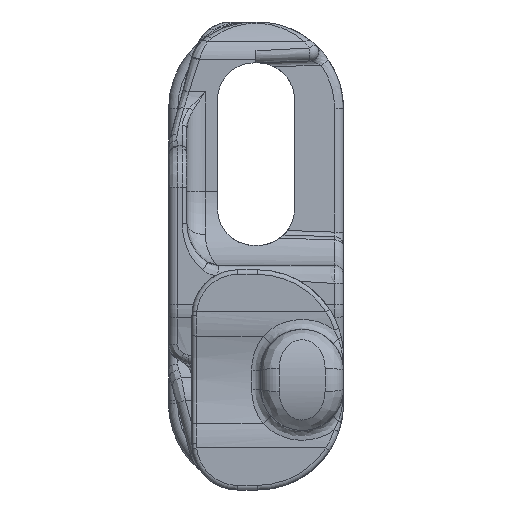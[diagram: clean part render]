
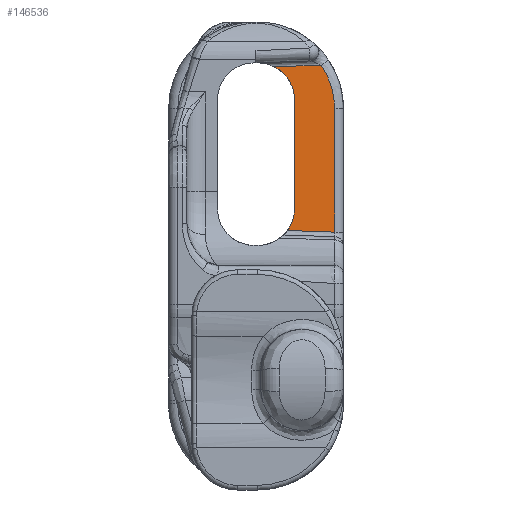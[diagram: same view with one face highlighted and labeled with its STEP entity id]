
A CAD part, left-side view. The second image highlights one B-rep face of the part: STEP entity #146536.
In plain terms, the highlighted planar face has unit normal (-0.999, -0.035, 0).
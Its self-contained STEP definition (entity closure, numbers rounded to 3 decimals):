
#54269=CARTESIAN_POINT('',(-125.051,-8.56,
4.601));
#54288=DIRECTION('',(0.,0.,-1.));
#54289=VECTOR('',#54288,11.9);
#54290=CARTESIAN_POINT('',(-125.203,-4.2,19.05));
#54291=LINE('',#54290,#54289);
#54295=CARTESIAN_POINT('',(-125.28,-2.004,
22.62));
#54296=CARTESIAN_POINT('',(-125.267,-2.37,
22.435));
#54297=CARTESIAN_POINT('',(-125.246,-2.981,
21.991));
#54298=CARTESIAN_POINT('',(-125.223,-3.645,
21.17));
#54299=CARTESIAN_POINT('',(-125.208,-4.079,
20.206));
#54300=CARTESIAN_POINT('',(-125.203,-4.2,19.46));
#54301=CARTESIAN_POINT('',(-125.203,-4.2,19.05));
#54306=DIRECTION('',(0.035,-0.999,0.035));
#54307=VECTOR('',#54306,5.125);
#54308=CARTESIAN_POINT('',(-125.28,-2.004,
22.62));
#54309=LINE('',#54308,#54307);
#54313=CARTESIAN_POINT('',(-125.101,-7.123,
22.799));
#54314=CARTESIAN_POINT('',(-125.097,-7.256,
22.602));
#54315=CARTESIAN_POINT('',(-125.088,-7.504,
22.198));
#54316=CARTESIAN_POINT('',(-125.077,-7.825,
21.56));
#54317=CARTESIAN_POINT('',(-125.067,-8.091,
20.898));
#54318=CARTESIAN_POINT('',(-125.06,-8.299,
20.217));
#54319=CARTESIAN_POINT('',(-125.055,-8.449,
19.52));
#54320=CARTESIAN_POINT('',(-125.052,-8.54,
18.812));
#54321=CARTESIAN_POINT('',(-125.051,-8.56,
18.338));
#54322=CARTESIAN_POINT('',(-125.051,-8.56,18.1));
#54327=DIRECTION('',(0.,0.,-1.));
#54328=VECTOR('',#54327,13.499);
#54329=CARTESIAN_POINT('',(-125.051,-8.56,18.1));
#54330=LINE('',#54329,#54328);
#54334=DIRECTION('',(0.035,-0.999,-0.035));
#54335=VECTOR('',#54334,5.144);
#54336=CARTESIAN_POINT('',(-125.23,-3.422,
4.78));
#54337=LINE('',#54336,#54335);
#54341=CARTESIAN_POINT('',(-125.203,-4.2,7.15));
#54342=CARTESIAN_POINT('',(-125.203,-4.2,6.712));
#54343=CARTESIAN_POINT('',(-125.208,-4.06,
5.883));
#54344=CARTESIAN_POINT('',(-125.221,-3.682,
5.133));
#54345=CARTESIAN_POINT('',(-125.23,-3.422,
4.78));
#54363=CARTESIAN_POINT('',(-125.28,-2.004,
22.62));
#84853=VERTEX_POINT('',#54269);
#84856=CARTESIAN_POINT('',(-125.051,-8.56,18.1));
#84857=VERTEX_POINT('',#84856);
#84859=VERTEX_POINT('',#54313);
#85290=CARTESIAN_POINT('',(-125.203,-4.2,19.05));
#85291=CARTESIAN_POINT('',(-125.203,-4.2,7.15));
#85292=VERTEX_POINT('',#85290);
#85293=VERTEX_POINT('',#85291);
#85301=VERTEX_POINT('',#54363);
#85320=CARTESIAN_POINT('',(-125.23,-3.422,
4.78));
#85321=VERTEX_POINT('',#85320);
#146521=CARTESIAN_POINT('',(-125.35,0.,24.41));
#146522=DIRECTION('',(0.999,0.035,0.));
#146523=DIRECTION('',(0.,0.,-1.));
#146524=AXIS2_PLACEMENT_3D('',#146521,#146522,#146523);
#146525=PLANE('',#146524);
#146526=ORIENTED_EDGE('',*,*,#97734,.F.);
#146527=ORIENTED_EDGE('',*,*,#98752,.F.);
#146529=ORIENTED_EDGE('',*,*,#146528,.T.);
#146530=ORIENTED_EDGE('',*,*,#102329,.T.);
#146531=ORIENTED_EDGE('',*,*,#102343,.T.);
#146532=ORIENTED_EDGE('',*,*,#146515,.F.);
#146533=ORIENTED_EDGE('',*,*,#133756,.F.);
#146534=EDGE_LOOP('',(#146526,#146527,#146529,#146530,#146531,#146532,#146533));
#146535=FACE_OUTER_BOUND('',#146534,.F.);
#54302=B_SPLINE_CURVE_WITH_KNOTS('',3,(#54295,#54296,#54297,#54298,#54299,
#54300,#54301),.UNSPECIFIED.,.F.,.F.,(4,1,1,1,4),(0.,0.25,0.5,0.75,
1.),.UNSPECIFIED.);
#54323=B_SPLINE_CURVE_WITH_KNOTS('',3,(#54313,#54314,#54315,#54316,#54317,
#54318,#54319,#54320,#54321,#54322),.UNSPECIFIED.,.F.,.F.,(4,1,1,1,1,1,1,4),(
0.,0.143,0.286,0.429,0.571,
0.714,0.857,1.),.UNSPECIFIED.);
#54346=B_SPLINE_CURVE_WITH_KNOTS('',3,(#54341,#54342,#54343,#54344,#54345),
.UNSPECIFIED.,.F.,.F.,(4,1,4),(0.,0.5,1.),.UNSPECIFIED.);
#97734=EDGE_CURVE('',#85292,#85293,#54291,.T.);
#98752=EDGE_CURVE('',#85301,#85292,#54302,.T.);
#102329=EDGE_CURVE('',#84859,#84857,#54323,.T.);
#102343=EDGE_CURVE('',#84857,#84853,#54330,.T.);
#133756=EDGE_CURVE('',#85293,#85321,#54346,.T.);
#146515=EDGE_CURVE('',#85321,#84853,#54337,.T.);
#146528=EDGE_CURVE('',#85301,#84859,#54309,.T.);
#146536=ADVANCED_FACE('',(#146535),#146525,.F.);
